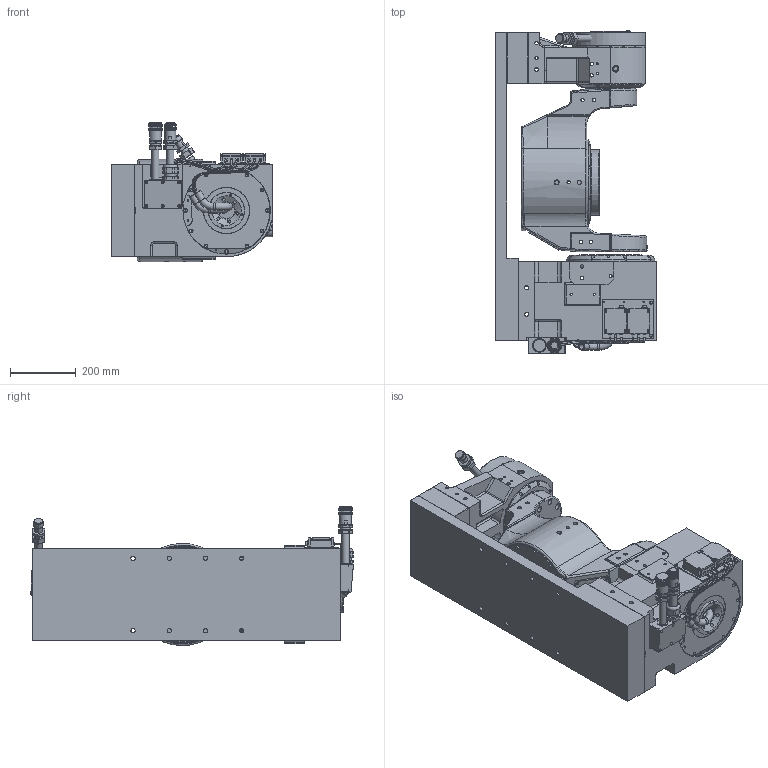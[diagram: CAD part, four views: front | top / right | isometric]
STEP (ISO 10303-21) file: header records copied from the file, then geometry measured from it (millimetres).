
FILE_DESCRIPTION (( 'STEP AP203' ), '1' );
FILE_NAME ('15091105.STEP', '2021-08-25T00:40:18', ( '' ), ( '' ), 'SwSTEP 2.0', 'SolidWorks 2021', '' );
FILE_SCHEMA (( 'CONFIG_CONTROL_DESIGN' ));
Length unit declared in the file: millimetre
Products named in the file (1): 15091105
Bounding box: 490 x 980 x 422.42 mm (x, y, z)
Surface area: 2657986.6 mm2 (no closed solid volume)
Topology: 0 solids, 98 shells, 1220 faces, 4756 edges, 3465 vertices
Faces by surface type: plane 568, cylinder 457, cone 64, bspline 57, torus 54, sphere 20
Full cylindrical faces by diameter (mm): 2.5 x3, 3.3 x4, 3.4 x4, 4 x3, 4.2 x2, 4.5 x6, 5 x12, 5.5 x5, 6 x9, 6.5 x3, 6.8 x4, 8 x15, 8.5 x4, 8.8 x1, 9 x3, 9.5 x37, 9.728 x1, 10.2 x27, 11 x23, 12 x10, 13 x8, 15 x2, 15.3 x3, 18 x14, 19 x14, 19.5 x1, 20 x1, 21.6 x8, 23.4 x1, 23.6 x1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
Entity records: 59068 total; most frequent: CARTESIAN_POINT 22055, DIRECTION 7362, ORIENTED_EDGE 6267, EDGE_CURVE 4301, VERTEX_POINT 3358, AXIS2_PLACEMENT_3D 2633, EDGE_LOOP 2103, LINE 2096
